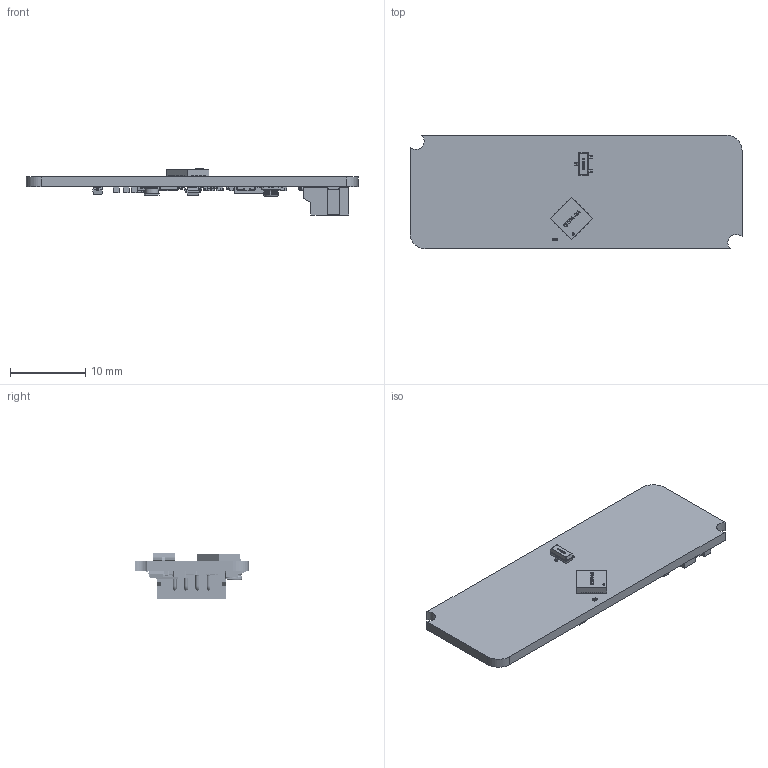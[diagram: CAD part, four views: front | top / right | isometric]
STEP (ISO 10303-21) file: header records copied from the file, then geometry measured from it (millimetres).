
FILE_DESCRIPTION(('Open CASCADE Model'),'2;1');
FILE_NAME('Open CASCADE Shape Model','2023-12-14T17:06:00',('Author'),( 'Open CASCADE'),'Open CASCADE STEP processor 6.8','Open CASCADE 6.8' ,'Unknown');
FILE_SCHEMA(('AUTOMOTIVE_DESIGN { 1 0 10303 214 1 1 1 1 }'));
Length unit declared in the file: millimetre
Products named in the file (76): PCB; Board; Open CASCADE STEP translator 6.8 1.1.1; R14; R_0201; LOGO?; R18; R_0402; C21; C_0402; C20; C2; C_0201; C9; C13; C7; C11; C19; C18; C30; C37; R10; R13; R8; R9; R15; R17; R16; R3; R4; R5; R37; R38; Y2; OSC_2025-4; LOGO?0.15; Y3; Free-Models; NR2520; QFN24-4X4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
Assembly tree (171 placements, depth 4):
  PCB
    Board
      Open CASCADE STEP translator 6.8 1.1.1
    R14
      R_0201
        R_0201
        LOGO?
    R18
      R_0402
        R_0402
        LOGO?
    C21
      C_0402
        LOGO?
        C_0402
    C20
      C_0402
        LOGO?
        C_0402
    C2
      C_0201
        LOGO?
        C_0201
    C9
      C_0201
        LOGO?
        C_0201
    C13
      C_0201
        LOGO?
        C_0201
    C7
      C_0201
        LOGO?
        C_0201
    C11
      C_0201
        LOGO?
        C_0201
    C19
      C_0201
        LOGO?
        C_0201
    C18
      C_0201
        LOGO?
        C_0201
    C30
      C_0201
        LOGO?
        C_0201
    C37
      C_0201
        LOGO?
        C_0201
    R10
      R_0201
        R_0201
        LOGO?
    R13
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Bounding box: 44 x 15 x 6.1 mm (x, y, z)
Volume: 1013.6 mm3; surface area: 2305.5 mm2
Topology: 1000 solids, 1000 shells, 12186 faces, 28406 edges, 18318 vertices
Faces by surface type: plane 6638, bspline 3075, cylinder 1993, sphere 290, torus 144, revolution 30, cone 16
Entity records: 150068 total; most frequent: CARTESIAN_POINT 55173, ORIENTED_EDGE 15632, DIRECTION 12166, EDGE_CURVE 7816, VERTEX_POINT 5085, LINE 4914, VECTOR 4914, AXIS2_PLACEMENT_3D 3618
